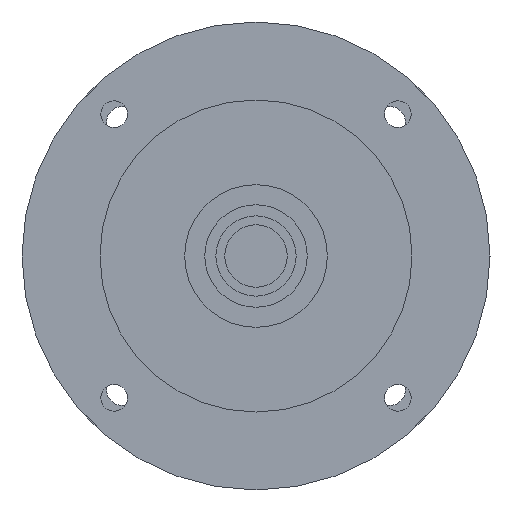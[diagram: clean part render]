
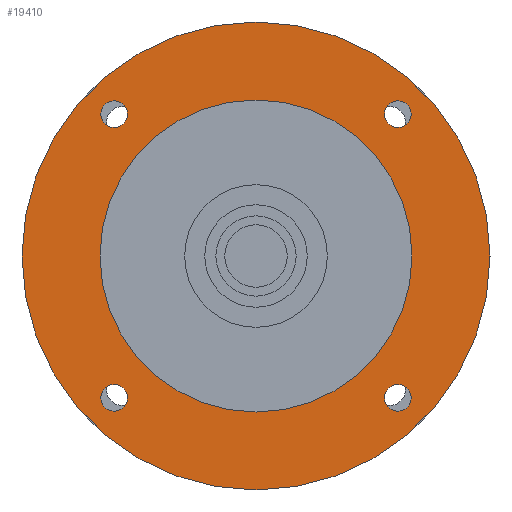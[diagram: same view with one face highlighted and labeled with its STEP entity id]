
A CAD part, left-side view. The second image highlights one B-rep face of the part: STEP entity #19410.
In plain terms, the highlighted planar face has unit normal (-1, 0, 0) as drawn and (0, 0, -1) by its records, which use the part's own axes.
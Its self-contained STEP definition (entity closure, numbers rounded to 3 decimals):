
#18250=CARTESIAN_POINT('',(-31.82,-28.82,-49.));
#18260=VERTEX_POINT('',#18250);
#18290=CARTESIAN_POINT('',(-31.82,-31.82,-49.));
#18300=DIRECTION('',(0.,0.,-1.));
#18310=DIRECTION('',(0.,-1.,0.));
#18320=AXIS2_PLACEMENT_3D('',#18290,#18300,#18310);
#18330=CIRCLE('',#18320,3.);
#18340=CARTESIAN_POINT('',(-31.82,-34.82,-49.));
#18350=VERTEX_POINT('',#18340);
#18360=EDGE_CURVE('',#18350,#18260,#18330,.T.);
#18480=CARTESIAN_POINT('',(0.,0.,
-49.));
#18490=DIRECTION('',(0.,0.,-1.));
#18500=DIRECTION('',(1.,0.,0.));
#18510=AXIS2_PLACEMENT_3D('',#18480,#18490,#18500);
#18520=PLANE('',#18510);
#18530=CARTESIAN_POINT('',(31.82,-31.82,-49.));
#18540=DIRECTION('',(0.,0.,-1.));
#18550=DIRECTION('',(1.,0.,0.));
#18560=AXIS2_PLACEMENT_3D('',#18530,#18540,#18550);
#18570=CIRCLE('',#18560,3.);
#18580=CARTESIAN_POINT('',(34.82,-31.82,-49.));
#18590=VERTEX_POINT('',#18580);
#18600=CARTESIAN_POINT('',(28.82,-31.82,-49.));
#18610=VERTEX_POINT('',#18600);
#18620=EDGE_CURVE('',#18590,#18610,#18570,.T.);
#18630=ORIENTED_EDGE('',*,*,#18620,.F.);
#18640=EDGE_CURVE('',#18610,#18590,#18570,.T.);
#18650=ORIENTED_EDGE('',*,*,#18640,.F.);
#18660=EDGE_LOOP('',(#18650,#18630));
#18670=FACE_BOUND('',#18660,.T.);
#18680=CARTESIAN_POINT('',(0.,0.,
-49.));
#18690=DIRECTION('',(0.,0.,-1.));
#18700=DIRECTION('',(0.,-1.,0.));
#18710=AXIS2_PLACEMENT_3D('',#18680,#18690,#18700);
#18720=CIRCLE('',#18710,52.5);
#18730=CARTESIAN_POINT('',(-52.5,0.,-49.));
#18740=VERTEX_POINT('',#18730);
#18750=CARTESIAN_POINT('',(52.5,0.,-49.));
#18760=VERTEX_POINT('',#18750);
#18770=EDGE_CURVE('',#18740,#18760,#18720,.T.);
#18780=ORIENTED_EDGE('',*,*,#18770,.T.);
#18790=CARTESIAN_POINT('',(0.,-52.5,-49.));
#18800=VERTEX_POINT('',#18790);
#18810=EDGE_CURVE('',#18800,#18740,#18720,.T.);
#18820=ORIENTED_EDGE('',*,*,#18810,.T.);
#18830=EDGE_CURVE('',#18760,#18800,#18720,.T.);
#18840=ORIENTED_EDGE('',*,*,#18830,.T.);
#18850=EDGE_LOOP('',(#18840,#18820,#18780));
#18860=FACE_OUTER_BOUND('',#18850,.T.);
#18870=CARTESIAN_POINT('',(31.82,31.82,-49.));
#18880=DIRECTION('',(0.,0.,-1.));
#18890=DIRECTION('',(0.,1.,0.));
#18900=AXIS2_PLACEMENT_3D('',#18870,#18880,#18890);
#18910=CIRCLE('',#18900,3.);
#18920=CARTESIAN_POINT('',(31.82,34.82,-49.));
#18930=VERTEX_POINT('',#18920);
#18940=CARTESIAN_POINT('',(31.82,28.82,-49.));
#18950=VERTEX_POINT('',#18940);
#18960=EDGE_CURVE('',#18930,#18950,#18910,.T.);
#18970=ORIENTED_EDGE('',*,*,#18960,.F.);
#18980=EDGE_CURVE('',#18950,#18930,#18910,.T.);
#18990=ORIENTED_EDGE('',*,*,#18980,.F.);
#19000=EDGE_LOOP('',(#18990,#18970));
#19010=FACE_BOUND('',#19000,.T.);
#19020=CARTESIAN_POINT('',(-31.82,31.82,-49.));
#19030=DIRECTION('',(0.,0.,-1.));
#19040=DIRECTION('',(-1.,0.,0.));
#19050=AXIS2_PLACEMENT_3D('',#19020,#19030,#19040);
#19060=CIRCLE('',#19050,3.);
#19070=CARTESIAN_POINT('',(-34.82,31.82,-49.));
#19080=VERTEX_POINT('',#19070);
#19090=CARTESIAN_POINT('',(-28.82,31.82,-49.));
#19100=VERTEX_POINT('',#19090);
#19110=EDGE_CURVE('',#19080,#19100,#19060,.T.);
#19120=ORIENTED_EDGE('',*,*,#19110,.F.);
#19130=EDGE_CURVE('',#19100,#19080,#19060,.T.);
#19140=ORIENTED_EDGE('',*,*,#19130,.F.);
#19150=EDGE_LOOP('',(#19140,#19120));
#19160=FACE_BOUND('',#19150,.T.);
#19170=ORIENTED_EDGE('',*,*,#18360,.F.);
#19180=EDGE_CURVE('',#18260,#18350,#18330,.T.);
#19190=ORIENTED_EDGE('',*,*,#19180,.F.);
#19200=EDGE_LOOP('',(#19190,#19170));
#19210=FACE_BOUND('',#19200,.T.);
#19220=CARTESIAN_POINT('',(0.,0.,
-49.));
#19230=DIRECTION('',(0.,0.,1.));
#19240=DIRECTION('',(0.,1.,0.));
#19250=AXIS2_PLACEMENT_3D('',#19220,#19230,#19240);
#19260=CIRCLE('',#19250,35.);
#19270=CARTESIAN_POINT('',(-35.,0.,-49.));
#19280=VERTEX_POINT('',#19270);
#19290=CARTESIAN_POINT('',(35.,0.,-49.));
#19300=VERTEX_POINT('',#19290);
#19310=EDGE_CURVE('',#19280,#19300,#19260,.T.);
#19320=ORIENTED_EDGE('',*,*,#19310,.T.);
#19330=CARTESIAN_POINT('',(0.,35.,-49.));
#19340=VERTEX_POINT('',#19330);
#19350=EDGE_CURVE('',#19340,#19280,#19260,.T.);
#19360=ORIENTED_EDGE('',*,*,#19350,.T.);
#19370=EDGE_CURVE('',#19300,#19340,#19260,.T.);
#19380=ORIENTED_EDGE('',*,*,#19370,.T.);
#19390=EDGE_LOOP('',(#19380,#19360,#19320));
#19400=FACE_BOUND('',#19390,.T.);
#19410=ADVANCED_FACE('',(#18670,#18860,#19010,#19160,#19210,#19400),
#18520,.T.);
